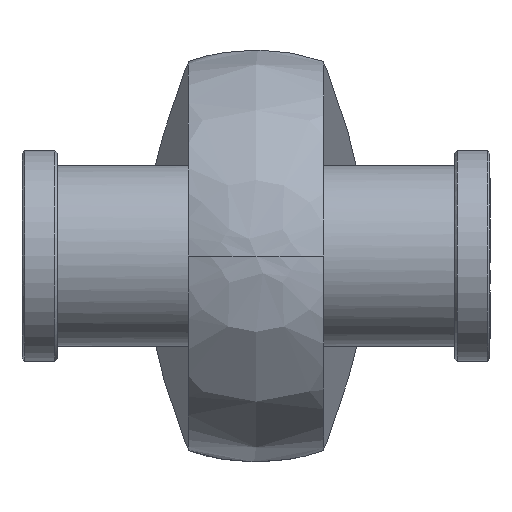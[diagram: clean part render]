
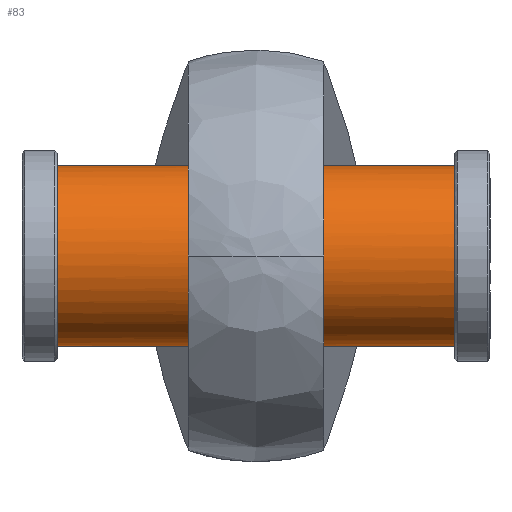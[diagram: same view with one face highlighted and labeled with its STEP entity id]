
A CAD part, left-side view. The second image highlights one B-rep face of the part: STEP entity #83.
In plain terms, the highlighted cylindrical face has radius 18 mm (diameter 36 mm), a full revolution.
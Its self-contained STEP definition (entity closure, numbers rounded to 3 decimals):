
#83=ADVANCED_FACE('',(#157),#1214,.T.);
#157=FACE_OUTER_BOUND('',#238,.T.);
#238=EDGE_LOOP('',(#506,#507,#508,#509));
#506=ORIENTED_EDGE('',*,*,#774,.T.);
#507=ORIENTED_EDGE('',*,*,#776,.T.);
#508=ORIENTED_EDGE('',*,*,#775,.T.);
#509=ORIENTED_EDGE('',*,*,#776,.F.);
#774=EDGE_CURVE('',#1128,#1128,#983,.T.);
#775=EDGE_CURVE('',#1129,#1129,#984,.T.);
#776=EDGE_CURVE('',#1128,#1129,#897,.T.);
#897=B_SPLINE_CURVE_WITH_KNOTS('',1,(#2248,#2249),.UNSPECIFIED.,.F.,.F.,
(2,2),(8.035,87.184),.UNSPECIFIED.);
#983=(
BOUNDED_CURVE()
B_SPLINE_CURVE(2,(#2230,#2231,#2232,#2233,#2234,#2235,#2236,#2237,#2238),
 .UNSPECIFIED.,.T.,.F.)
B_SPLINE_CURVE_WITH_KNOTS((3,2,2,2,3),(0.,28.274,56.549,
84.823,113.097),.UNSPECIFIED.)
CURVE()
GEOMETRIC_REPRESENTATION_ITEM()
RATIONAL_B_SPLINE_CURVE((1.,0.707,1.,0.707,1.,0.707,
1.,0.707,1.))
REPRESENTATION_ITEM('')
);
#984=(
BOUNDED_CURVE()
B_SPLINE_CURVE(2,(#2239,#2240,#2241,#2242,#2243,#2244,#2245,#2246,#2247),
 .UNSPECIFIED.,.T.,.F.)
B_SPLINE_CURVE_WITH_KNOTS((3,2,2,2,3),(0.,28.274,56.549,
84.823,113.097),.UNSPECIFIED.)
CURVE()
GEOMETRIC_REPRESENTATION_ITEM()
RATIONAL_B_SPLINE_CURVE((1.,0.707,1.,0.707,1.,0.707,
1.,0.707,1.))
REPRESENTATION_ITEM('')
);
#1128=VERTEX_POINT('',#2182);
#1129=VERTEX_POINT('',#2183);
#1214=CYLINDRICAL_SURFACE('',#1366,18.);
#1366=AXIS2_PLACEMENT_3D('',#2172,#1412,$);
#1412=DIRECTION('',(0.,-1.,0.));
#2172=CARTESIAN_POINT('',(0.,0.,0.));
#2182=CARTESIAN_POINT('',(18.,39.575,0.));
#2183=CARTESIAN_POINT('',(18.,-39.575,0.));
#2230=CARTESIAN_POINT('',(18.,39.575,0.));
#2231=CARTESIAN_POINT('',(18.,39.575,18.));
#2232=CARTESIAN_POINT('',(0.,39.575,18.));
#2233=CARTESIAN_POINT('',(-18.,39.575,18.));
#2234=CARTESIAN_POINT('',(-18.,39.575,0.));
#2235=CARTESIAN_POINT('',(-18.,39.575,-18.));
#2236=CARTESIAN_POINT('',(0.,39.575,-18.));
#2237=CARTESIAN_POINT('',(18.,39.575,-18.));
#2238=CARTESIAN_POINT('',(18.,39.575,0.));
#2239=CARTESIAN_POINT('',(18.,-39.575,0.));
#2240=CARTESIAN_POINT('',(18.,-39.575,-18.));
#2241=CARTESIAN_POINT('',(0.,-39.575,-18.));
#2242=CARTESIAN_POINT('',(-18.,-39.575,-18.));
#2243=CARTESIAN_POINT('',(-18.,-39.575,0.));
#2244=CARTESIAN_POINT('',(-18.,-39.575,18.));
#2245=CARTESIAN_POINT('',(0.,-39.575,18.));
#2246=CARTESIAN_POINT('',(18.,-39.575,18.));
#2247=CARTESIAN_POINT('',(18.,-39.575,0.));
#2248=CARTESIAN_POINT('',(18.,39.575,0.));
#2249=CARTESIAN_POINT('',(18.,-39.575,0.));
